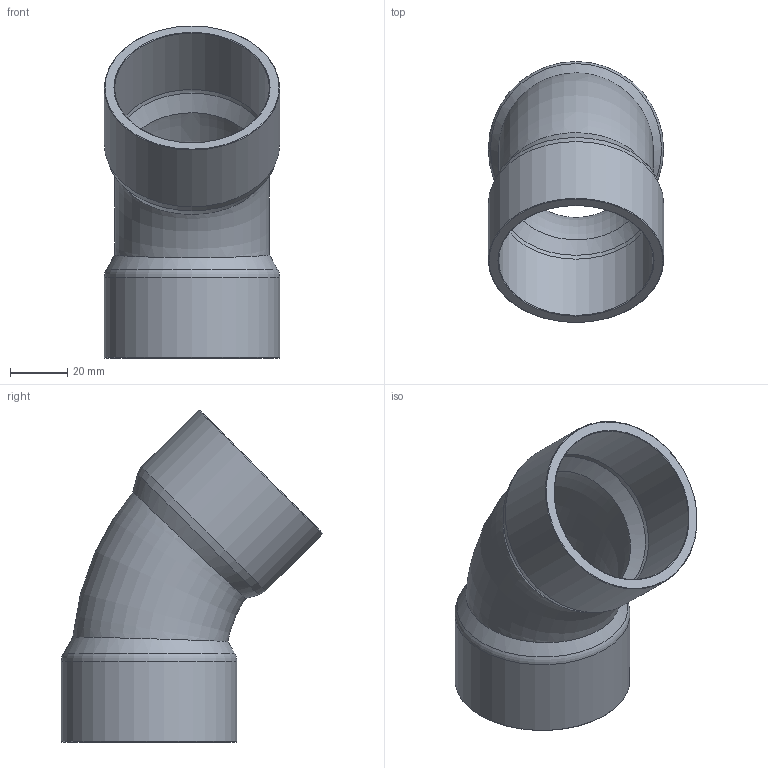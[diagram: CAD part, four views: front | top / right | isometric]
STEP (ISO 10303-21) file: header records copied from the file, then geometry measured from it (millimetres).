
FILE_DESCRIPTION((''),'2;1');
FILE_NAME('G:\SANHA-Ternat\Technik\Management\Bouwmaten + markeringen\z-maattekeningen 3D\29000s\29041218_3d.stp','2017-07-26T11:08:31',('vdvijverd'),(''),'Autodesk Inventor 2009','Autodesk Inventor 2009','');
FILE_SCHEMA(('AUTOMOTIVE_DESIGN { 1 0 10303 214 1 1 1 1 }'));
Length unit declared in the file: millimetre
Products named in the file (1): 29041218_3d
Bounding box: 61.26 x 91.28 x 115.99 mm (x, y, z)
Volume: 67019.7 mm3; surface area: 38954.8 mm2
Topology: 1 solids, 1 shells, 20 faces, 38 edges, 20 vertices
Faces by surface type: bspline 8, cone 6, torus 3, cylinder 2, plane 1
Full cylindrical faces by diameter (mm): 54.155 x1, 61.255 x1
Entity records: 808 total; most frequent: CARTESIAN_POINT 478, DIRECTION 58, ORIENTED_EDGE 40, EDGE_LOOP 40, AXIS2_PLACEMENT_3D 29, VERTEX_POINT 20, EDGE_CURVE 20, FACE_OUTER_BOUND 20
